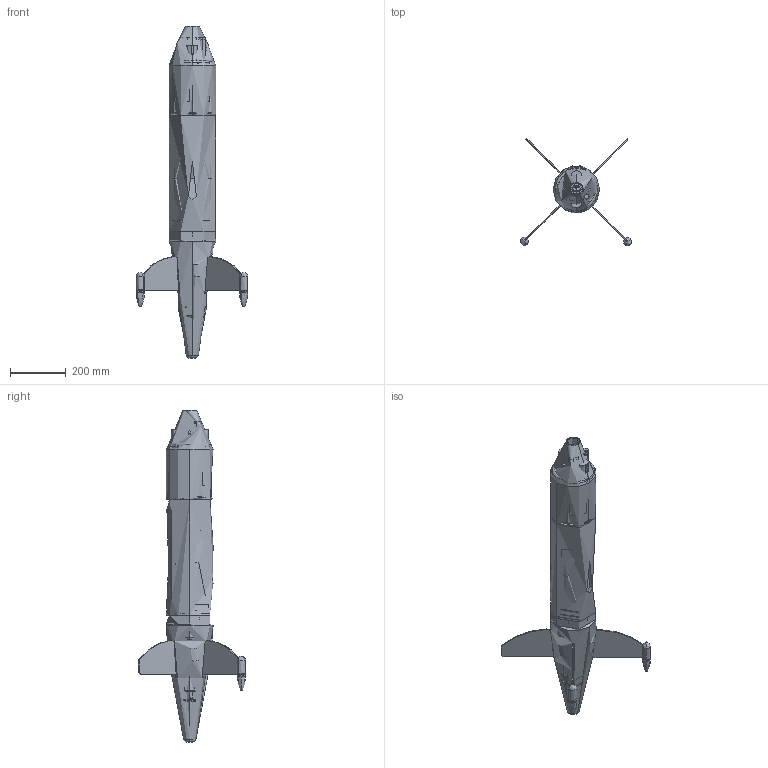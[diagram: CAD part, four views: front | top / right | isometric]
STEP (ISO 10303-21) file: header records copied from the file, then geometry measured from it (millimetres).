
FILE_DESCRIPTION (( 'STEP AP203' ), '1' );
FILE_NAME ('Towbody.STEP', '2014-09-11T21:39:10', ( 'Ernie' ), ( '' ), 'SwSTEP 2.0', 'SolidWorks 2014', '' );
FILE_SCHEMA (( 'CONFIG_CONTROL_DESIGN' ));
Length unit declared in the file: millimetre
Products named in the file (201): 06096; 02524-XX-XXX; 02580; 01478; 06086; 02522-XXX_AS568-114, 15.5mm ID, 2.61mm THK; 02517-XX-XXX; 06105; 03900_REV_A; 04778; Towbody; 00068; 01250; 03521; 06113; 06085; 03520; 02522-XXX; 03138; 02518-XX-XXX_M5x0.8, 12mm; 03168; 02587-XX; 00855; 02875; 06098; 03231; 06087; 02525-XX_6mm; 06106_94150A355; 04050; 06075; 06086_initial assembly; 02591-X; 03878; 06099; 02518-XX-XXX_M5x0.8, 20mm; 02525-XX; 01243; 06088; 02516-XX-XXX_M3x0.5, 4mm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
Assembly tree (148 placements, depth 3):
  02524-XX-XXX
  01478
  06086
  02517-XX-XXX
  03900_REV_A
Bounding box: 398.73 x 384.43 x 1186.33 mm (x, y, z)
Volume: 12523491.9 mm3; surface area: 2180798.6 mm2
Topology: 137 solids, 137 shells, 4663 faces, 11252 edges, 6962 vertices
Faces by surface type: plane 1645, cylinder 1626, cone 803, bspline 365, torus 198, sphere 26
Entity records: 113397 total; most frequent: CARTESIAN_POINT 38110, DIRECTION 11967, ORIENTED_EDGE 11522, EDGE_CURVE 5761, AXIS2_PLACEMENT_3D 4768, VERTEX_POINT 3603, EDGE_LOOP 2722, LINE 2431
